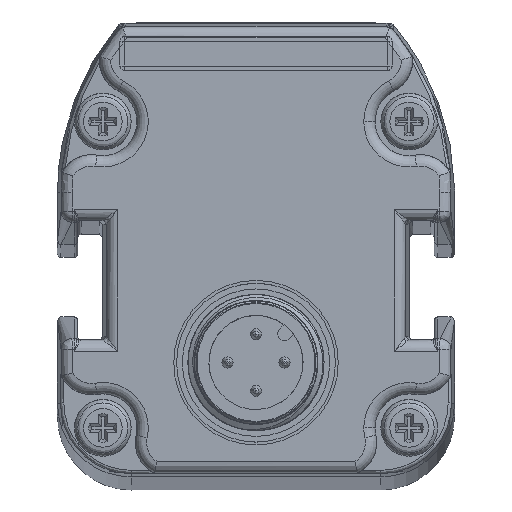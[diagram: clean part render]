
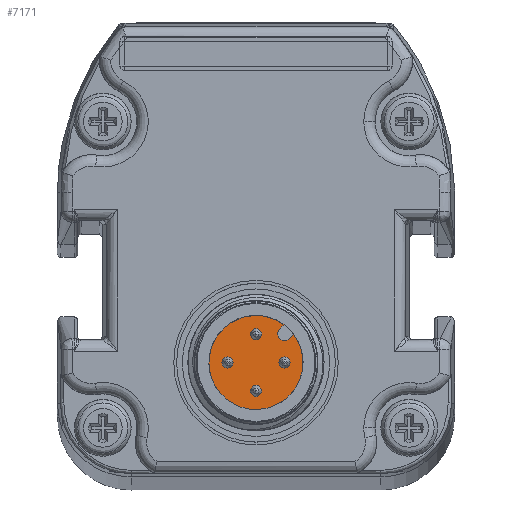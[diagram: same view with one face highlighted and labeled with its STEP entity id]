
A CAD part, top view. The second image highlights one B-rep face of the part: STEP entity #7171.
In plain terms, the highlighted planar face has unit normal (0, 0, 1).
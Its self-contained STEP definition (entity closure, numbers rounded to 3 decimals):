
#4896=PLANE('',#16472);
#5298=LINE('',#22893,#6224);
#5299=LINE('',#22897,#6225);
#6224=VECTOR('',#18099,1.);
#6225=VECTOR('',#18102,1.);
#7171=ADVANCED_FACE('',(#7971,#7972,#7973,#7974,#7975),#4896,.T.);
#7971=FACE_BOUND('',#8283,.T.);
#7972=FACE_BOUND('',#8284,.T.);
#7973=FACE_BOUND('',#8285,.T.);
#7974=FACE_BOUND('',#8286,.T.);
#7975=FACE_BOUND('',#8287,.T.);
#8283=EDGE_LOOP('',(#9711,#9712,#9713,#9714));
#8284=EDGE_LOOP('',(#9715));
#8285=EDGE_LOOP('',(#9716));
#8286=EDGE_LOOP('',(#9717));
#8287=EDGE_LOOP('',(#9718));
#9711=ORIENTED_EDGE('',*,*,#14250,.T.);
#9712=ORIENTED_EDGE('',*,*,#14251,.T.);
#9713=ORIENTED_EDGE('',*,*,#14252,.F.);
#9714=ORIENTED_EDGE('',*,*,#14253,.T.);
#9715=ORIENTED_EDGE('',*,*,#14254,.T.);
#9716=ORIENTED_EDGE('',*,*,#14255,.T.);
#9717=ORIENTED_EDGE('',*,*,#14256,.T.);
#9718=ORIENTED_EDGE('',*,*,#14257,.T.);
#12895=VERTEX_POINT('',#22891);
#12896=VERTEX_POINT('',#22892);
#12897=VERTEX_POINT('',#22894);
#12898=VERTEX_POINT('',#22896);
#12899=VERTEX_POINT('',#22899);
#12900=VERTEX_POINT('',#22901);
#12901=VERTEX_POINT('',#22903);
#12902=VERTEX_POINT('',#22905);
#14250=EDGE_CURVE('',#12895,#12896,#15801,.T.);
#14251=EDGE_CURVE('',#12896,#12897,#5298,.T.);
#14252=EDGE_CURVE('',#12898,#12897,#15802,.T.);
#14253=EDGE_CURVE('',#12898,#12895,#5299,.T.);
#14254=EDGE_CURVE('',#12899,#12899,#15803,.T.);
#14255=EDGE_CURVE('',#12900,#12900,#15804,.T.);
#14256=EDGE_CURVE('',#12901,#12901,#15805,.T.);
#14257=EDGE_CURVE('',#12902,#12902,#15806,.T.);
#15801=CIRCLE('',#16466,0.6);
#15802=CIRCLE('',#16467,4.15);
#15803=CIRCLE('',#16468,0.5);
#15804=CIRCLE('',#16469,0.5);
#15805=CIRCLE('',#16470,0.5);
#15806=CIRCLE('',#16471,0.5);
#16466=AXIS2_PLACEMENT_3D('',#22890,#18097,#18098);
#16467=AXIS2_PLACEMENT_3D('',#22895,#18100,#18101);
#16468=AXIS2_PLACEMENT_3D('',#22898,#18103,#18104);
#16469=AXIS2_PLACEMENT_3D('',#22900,#18105,#18106);
#16470=AXIS2_PLACEMENT_3D('',#22902,#18107,#18108);
#16471=AXIS2_PLACEMENT_3D('',#22904,#18109,#18110);
#16472=AXIS2_PLACEMENT_3D('',#22906,#18111,#18112);
#18097=DIRECTION('',(0.,0.,-1.));
#18098=DIRECTION('',(1.,0.,0.));
#18099=DIRECTION('',(0.707,0.707,0.));
#18100=DIRECTION('',(0.,0.,-1.));
#18101=DIRECTION('',(1.,0.,0.));
#18102=DIRECTION('',(-0.707,-0.707,0.));
#18103=DIRECTION('',(0.,0.,-1.));
#18104=DIRECTION('',(1.,0.,0.));
#18105=DIRECTION('',(0.,0.,-1.));
#18106=DIRECTION('',(1.,0.,0.));
#18107=DIRECTION('',(0.,0.,-1.));
#18108=DIRECTION('',(1.,0.,0.));
#18109=DIRECTION('',(0.,0.,-1.));
#18110=DIRECTION('',(1.,0.,0.));
#18111=DIRECTION('',(0.,0.,1.));
#18112=DIRECTION('',(-1.,0.,0.));
#22890=CARTESIAN_POINT('',(84.523,10.067,1749.268));
#22891=CARTESIAN_POINT('',(84.947,9.643,1749.268));
#22892=CARTESIAN_POINT('',(84.099,10.492,1749.268));
#22893=CARTESIAN_POINT('',(84.099,10.492,1749.268));
#22894=CARTESIAN_POINT('',(84.492,10.885,1749.268));
#22895=CARTESIAN_POINT('',(82.013,7.557,1749.268));
#22896=CARTESIAN_POINT('',(85.341,10.036,1749.268));
#22897=CARTESIAN_POINT('',(85.341,10.036,1749.268));
#22898=CARTESIAN_POINT('',(79.513,7.557,1749.268));
#22899=CARTESIAN_POINT('',(80.013,7.557,1749.268));
#22900=CARTESIAN_POINT('',(84.513,7.557,1749.268));
#22901=CARTESIAN_POINT('',(85.013,7.557,1749.268));
#22902=CARTESIAN_POINT('',(82.013,5.057,1749.268));
#22903=CARTESIAN_POINT('',(82.513,5.057,1749.268));
#22904=CARTESIAN_POINT('',(82.013,10.057,1749.268));
#22905=CARTESIAN_POINT('',(82.513,10.057,1749.268));
#22906=CARTESIAN_POINT('',(82.013,7.557,1749.268));
